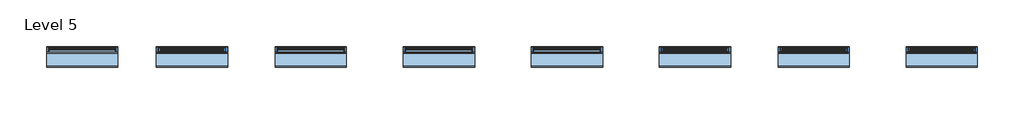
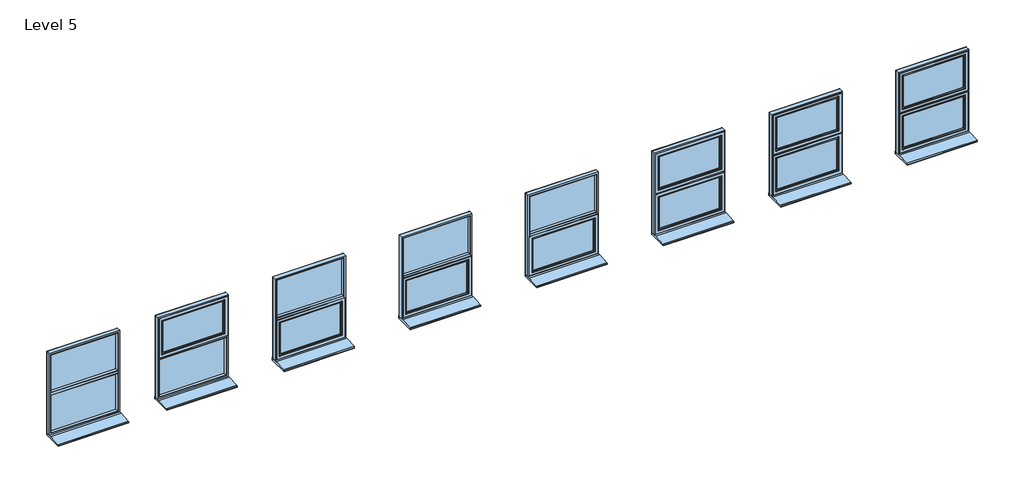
# One storey: 8 windows.
"""IFC4 building model written with IfcOpenShell, lengths in millimetres."""

from ifc_helpers import new_model, si_unit, origin, place, context, project, spatial, transform, mapped, element, save
from components import standard_2_5900fd49, standard_2_19a095b1, standard_2_242662c3, standard_2_687e85b9

model = new_model("IFC4")

# Units and contexts
model_context = context("Model", 3, world=origin())
ifc_project = project(units=[si_unit("LENGTHUNIT", "METRE", prefix="MILLI")], contexts=[model_context])

# Site, building, storey
site = spatial("IfcSite", under=ifc_project)
building = spatial("IfcBuilding", under=site)
storey = spatial("IfcBuildingStorey", under=building, Name="Level 5", Elevation=12000.0)

# Windows
placement = place(None, origin())
standard_2_shape = standard_2_5900fd49(model_context)
element("IfcWindow", 1, ObjectType="SMARTS_AlithermHeritage : Standard 2", at=placement, inside=storey, context=model_context, shape_type="MappedRepresentation", body=[
    mapped(standard_2_shape, transform((-165523.3801149, 24355.9063079, 11668.8184812), x_axis=(-1.0, 0.0, 0.0), y_axis=(0.0, -1.0, 0.0), z_axis=(0.0, 0.0, 1.0))),
])
standard_2_2_shape = standard_2_19a095b1(model_context)
element("IfcWindow", 2, ObjectType="SMARTS_AlithermHeritage : Standard 2", at=placement, inside=storey, context=model_context, shape_type="MappedRepresentation", body=[
    mapped(standard_2_2_shape, transform((-164123.3801149, 24355.9063079, 11668.8184812), x_axis=(-1.0, 0.0, 0.0), y_axis=(0.0, -1.0, 0.0), z_axis=(0.0, 0.0, 1.0))),
])
element("IfcWindow", 3, ObjectType="SMARTS_AlithermHeritage : Standard 2", at=placement, inside=storey, context=model_context, shape_type="MappedRepresentation", body=[
    mapped(standard_2_2_shape, transform((-162823.3801149, 24355.9063079, 11668.8184812), x_axis=(-1.0, 0.0, 0.0), y_axis=(0.0, -1.0, 0.0), z_axis=(0.0, 0.0, 1.0))),
])
element("IfcWindow", 4, ObjectType="SMARTS_AlithermHeritage : Standard 2", at=placement, inside=storey, context=model_context, shape_type="MappedRepresentation", body=[
    mapped(standard_2_2_shape, transform((-161423.3801149, 24355.9063079, 11668.8184812), x_axis=(-1.0, 0.0, 0.0), y_axis=(0.0, -1.0, 0.0), z_axis=(0.0, 0.0, 1.0))),
])
standard_2_3_shape = standard_2_242662c3(model_context)
element("IfcWindow", 5, ObjectType="SMARTS_AlithermHeritage : Standard 2", at=placement, inside=storey, context=model_context, shape_type="MappedRepresentation", body=[
    mapped(standard_2_3_shape, transform((-170823.3801149, 24355.9063079, 11668.8184812), x_axis=(-1.0, 0.0, 0.0), y_axis=(0.0, -1.0, 0.0), z_axis=(0.0, 0.0, 1.0))),
])
standard_2_4_shape = standard_2_687e85b9(model_context)
element("IfcWindow", 6, ObjectType="SMARTS_AlithermHeritage : Standard 2", at=placement, inside=storey, context=model_context, shape_type="MappedRepresentation", body=[
    mapped(standard_2_4_shape, transform((-169623.3801149, 24355.9063079, 11668.8184812), x_axis=(-1.0, 0.0, 0.0), y_axis=(0.0, -1.0, 0.0), z_axis=(0.0, 0.0, 1.0))),
])
element("IfcWindow", 7, ObjectType="SMARTS_AlithermHeritage : Standard 2", at=placement, inside=storey, context=model_context, shape_type="MappedRepresentation", body=[
    mapped(standard_2_shape, transform((-168323.3801149, 24355.9063079, 11668.8184812), x_axis=(-1.0, 0.0, 0.0), y_axis=(0.0, -1.0, 0.0), z_axis=(0.0, 0.0, 1.0))),
])
element("IfcWindow", 8, ObjectType="SMARTS_AlithermHeritage : Standard 2", at=placement, inside=storey, context=model_context, shape_type="MappedRepresentation", body=[
    mapped(standard_2_shape, transform((-166923.3801149, 24355.9063079, 11668.8184812), x_axis=(-1.0, 0.0, 0.0), y_axis=(0.0, -1.0, 0.0), z_axis=(0.0, 0.0, 1.0))),
])

save(model, "model.ifc")
